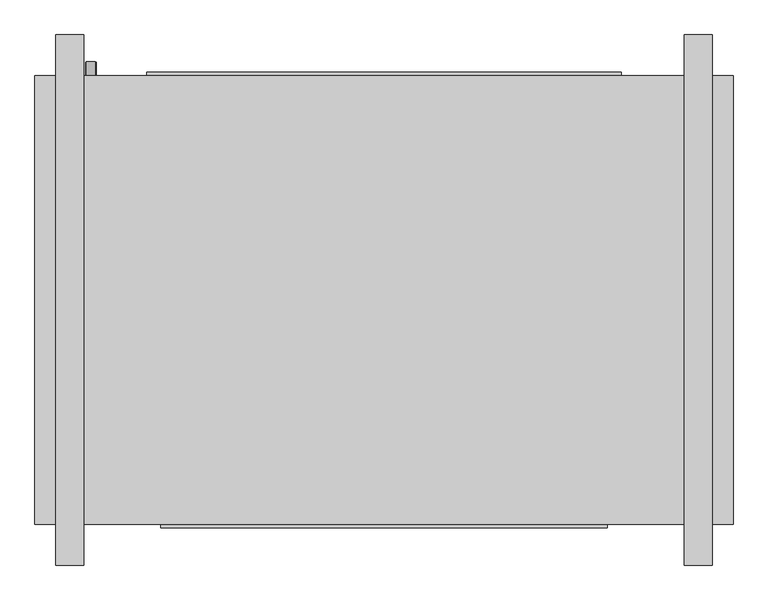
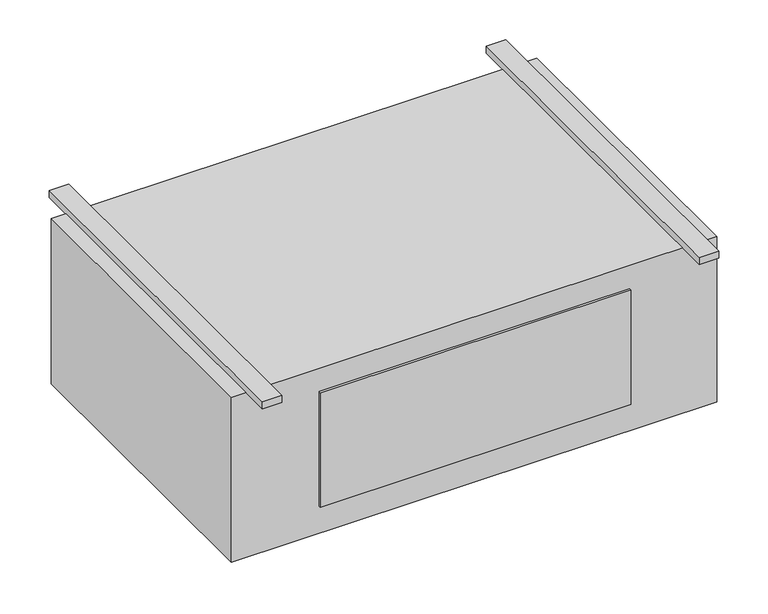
"""IFC4 building model written with IfcOpenShell, lengths in millimetres: proxy geometry, Exposed_High_Capacity_Horizontal_Cabinet_Fan_Coil_Unit_-_42DFA_-_CARRIER_-_4-Pipe_LH_2022 : Size 14 - 277v/60Hz/1Ph - 6/2 Coil."""

from ifc_helpers import new_model, si_unit, point, frame, frame_2d, origin, origin_with_axes, place, context, project, spatial, polyline, circle_curve, trimmed, segment, composite_curve, outline, extrude, source, transform, mapped, element, save


def mechanical_equipment_b7b84645(model_context):
    return source(origin(), model_context, "Body", "SweptSolid", [
        extrude(outline(composite_curve([segment(trimmed(circle_curve(frame_2d((-406.4, -381.0)), 9.525), [point((-406.4, -390.525))], [point((-406.4, -371.475))], False, "CARTESIAN"), True, "CONTINUOUS"), segment(trimmed(circle_curve(frame_2d((-406.4, -381.0)), 9.525), [point((-406.4, -371.475))], [point((-406.4, -390.525))], False, "CARTESIAN"), True, "CONTINUOUS")], self_intersect=False)), frame((0.0, 169.8625, 0.0), z_axis=(0.0, 1.0, 0.0), x_axis=(0.0, 0.0, 1.0)), (0.0, 0.0, 1.0), 25.4),
        extrude(outline(composite_curve([segment(trimmed(circle_curve(frame_2d((-330.2, -381.0)), 7.9375), [point((-330.2, -388.9375))], [point((-330.2, -373.0625))], False, "CARTESIAN"), True, "CONTINUOUS"), segment(trimmed(circle_curve(frame_2d((-330.2, -381.0)), 7.9375), [point((-330.2, -373.0625))], [point((-330.2, -388.9375))], False, "CARTESIAN"), True, "CONTINUOUS")], self_intersect=False)), frame((0.0, 169.8625, 0.0), z_axis=(0.0, 1.0, 0.0), x_axis=(0.0, 0.0, 1.0)), (0.0, 0.0, 1.0), 25.4),
        extrude(outline(composite_curve([segment(trimmed(circle_curve(frame_2d((-254.0, -381.0)), 7.9375), [point((-254.0, -388.9375))], [point((-254.0, -373.0625))], False, "CARTESIAN"), True, "CONTINUOUS"), segment(trimmed(circle_curve(frame_2d((-254.0, -381.0)), 7.9375), [point((-254.0, -373.0625))], [point((-254.0, -388.9375))], False, "CARTESIAN"), True, "CONTINUOUS")], self_intersect=False)), frame((0.0, 169.8625, 0.0), z_axis=(0.0, 1.0, 0.0), x_axis=(0.0, 0.0, 1.0)), (0.0, 0.0, 1.0), 25.4),
        extrude(outline(composite_curve([segment(trimmed(circle_curve(frame_2d((-177.8, -381.0)), 7.9375), [point((-177.8, -388.9375))], [point((-177.8, -373.0625))], False, "CARTESIAN"), True, "CONTINUOUS"), segment(trimmed(circle_curve(frame_2d((-177.8, -381.0)), 7.9375), [point((-177.8, -373.0625))], [point((-177.8, -388.9375))], False, "CARTESIAN"), True, "CONTINUOUS")], self_intersect=False)), frame((0.0, 169.8625, 0.0), z_axis=(0.0, 1.0, 0.0), x_axis=(0.0, 0.0, 1.0)), (0.0, 0.0, 1.0), 25.4),
        extrude(outline(composite_curve([segment(trimmed(circle_curve(frame_2d((-101.6, -381.0)), 7.9375), [point((-101.6, -388.9375))], [point((-101.6, -373.0625))], False, "CARTESIAN"), True, "CONTINUOUS"), segment(trimmed(circle_curve(frame_2d((-101.6, -381.0)), 7.9375), [point((-101.6, -373.0625))], [point((-101.6, -388.9375))], False, "CARTESIAN"), True, "CONTINUOUS")], self_intersect=False)), frame((0.0, 169.8625, 0.0), z_axis=(0.0, 1.0, 0.0), x_axis=(0.0, 0.0, 1.0)), (0.0, 0.0, 1.0), 25.4),
        extrude(outline(polyline([(787.4, 169.8625), (787.4, -646.1125), (-482.6, -646.1125), (-482.6, 169.8625), (787.4, 169.8625)])), frame((0.0, 0.0, -457.2), z_axis=(0.0, 0.0, 1.0), x_axis=(1.0, 0.0, 0.0)), (0.0, 0.0, 1.0), 457.2),
        extrude(outline(polyline([(-279.4, 176.2125), (584.2, 176.2125), (584.2, 169.8625), (-279.4, 169.8625), (-279.4, 176.2125)])), frame((0.0, 0.0, -381.0), z_axis=(0.0, 0.0, 1.0), x_axis=(1.0, 0.0, 0.0)), (0.0, 0.0, 1.0), 355.6),
        extrude(outline(polyline([(-393.7, 244.475), (-393.7, -720.725), (-444.5, -720.725), (-444.5, 244.475), (-393.7, 244.475)])), origin_with_axes(), (0.0, 0.0, 1.0), 19.05),
        extrude(outline(polyline([(749.3, 244.475), (749.3, -720.725), (698.5, -720.725), (698.5, 244.475), (749.3, 244.475)])), origin_with_axes(), (0.0, 0.0, 1.0), 19.05),
        extrude(outline(polyline([(558.8, -652.4625), (-254.0, -652.4625), (-254.0, -646.1125), (558.8, -646.1125), (558.8, -652.4625)])), frame((0.0, 0.0, -381.0), z_axis=(0.0, 0.0, 1.0), x_axis=(1.0, 0.0, 0.0)), (0.0, 0.0, 1.0), 317.5),
    ])


if __name__ == "__main__":
    model = new_model("IFC4")
    model_context = context("Model", 3, world=origin())
    ifc_project = project(units=[si_unit("LENGTHUNIT", "METRE", prefix="MILLI")], contexts=[model_context])
    site = spatial("IfcSite", under=ifc_project)
    building = spatial("IfcBuilding", under=site)
    placement = place(None, origin())
    mechanical_equipment_shape = mechanical_equipment_b7b84645(model_context)
    element("IfcBuildingElementProxy", 1, Name="Exposed_High_Capacity_Horizontal_Cabinet_Fan_Coil_Unit_-_42DFA_-_CARRIER_-_4-Pipe_LH_2022 : Size 14 - 277v/60Hz/1Ph - 6/2 Coil", ObjectType="Exposed_High_Capacity_Horizontal_Cabinet_Fan_Coil_Unit_-_42DFA_-_CARRIER_-_4-Pipe_LH_2022 : Size 14 - 277v/60Hz/1Ph - 6/2 Coil", at=placement, inside=building, context=model_context, shape_type="MappedRepresentation", body=[
        mapped(mechanical_equipment_shape, transform((0.0, 0.0, 0.0), x_axis=(1.0, 0.0, 0.0), y_axis=(0.0, 1.0, 0.0), z_axis=(0.0, 0.0, 1.0))),
    ])
    save(model, "model.ifc")
